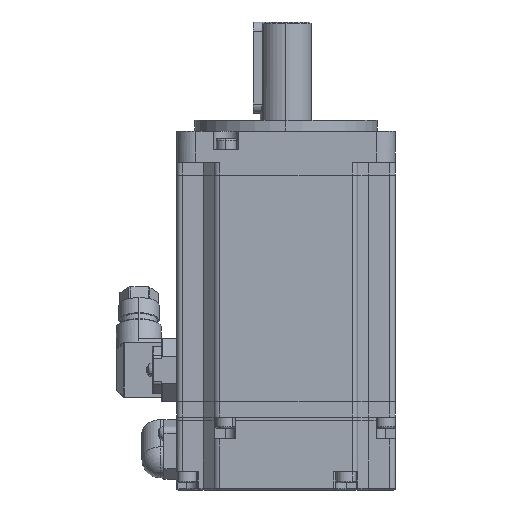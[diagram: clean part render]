
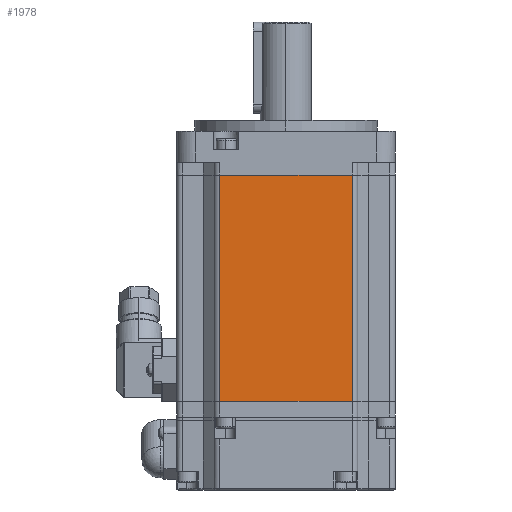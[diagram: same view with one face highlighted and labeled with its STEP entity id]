
A CAD part, front view. The second image highlights one B-rep face of the part: STEP entity #1978.
In plain terms, the highlighted planar face has unit normal (0, -1, 0).
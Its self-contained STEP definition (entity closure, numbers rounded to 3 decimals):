
#585=PLANE('',#28426);
#1978=ADVANCED_FACE('',(#4312),#585,.F.);
#4312=FACE_OUTER_BOUND('',#6018,.T.);
#6018=EDGE_LOOP('',(#12194,#12195,#12196,#12197));
#7909=LINE('',#40633,#10025);
#7910=LINE('',#40636,#10026);
#7911=LINE('',#40638,#10027);
#7912=LINE('',#40640,#10028);
#10025=VECTOR('',#31827,1.);
#10026=VECTOR('',#31828,1.);
#10027=VECTOR('',#31829,1.);
#10028=VECTOR('',#31830,1.);
#12194=ORIENTED_EDGE('',*,*,#22773,.T.);
#12195=ORIENTED_EDGE('',*,*,#22774,.F.);
#12196=ORIENTED_EDGE('',*,*,#22775,.T.);
#12197=ORIENTED_EDGE('',*,*,#22776,.F.);
#20330=VERTEX_POINT('',#40634);
#20331=VERTEX_POINT('',#40635);
#20332=VERTEX_POINT('',#40637);
#20333=VERTEX_POINT('',#40639);
#22773=EDGE_CURVE('',#20330,#20331,#7909,.T.);
#22774=EDGE_CURVE('',#20332,#20331,#7910,.T.);
#22775=EDGE_CURVE('',#20332,#20333,#7911,.T.);
#22776=EDGE_CURVE('',#20330,#20333,#7912,.T.);
#28426=AXIS2_PLACEMENT_3D('',#40641,#31831,#31832);
#31827=DIRECTION('',(0.,0.,-1.));
#31828=DIRECTION('',(-1.,0.,0.));
#31829=DIRECTION('',(0.,0.,1.));
#31830=DIRECTION('',(1.,0.,0.));
#31831=DIRECTION('',(0.,1.,0.));
#31832=DIRECTION('',(0.,0.,-1.));
#40633=CARTESIAN_POINT('',(-18.2,-30.,-125.1));
#40634=CARTESIAN_POINT('',(-18.2,-30.,-15.));
#40635=CARTESIAN_POINT('',(-18.2,-30.,-77.1));
#40636=CARTESIAN_POINT('',(-19.5,-30.,-77.1));
#40637=CARTESIAN_POINT('',(18.2,-30.,-77.1));
#40638=CARTESIAN_POINT('',(18.2,-30.,-125.1));
#40639=CARTESIAN_POINT('',(18.2,-30.,-15.));
#40640=CARTESIAN_POINT('',(-19.5,-30.,-15.));
#40641=CARTESIAN_POINT('',(-19.5,-30.,-125.1));
